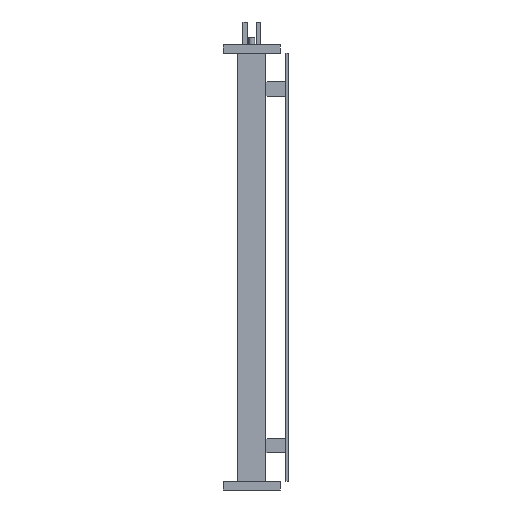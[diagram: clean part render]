
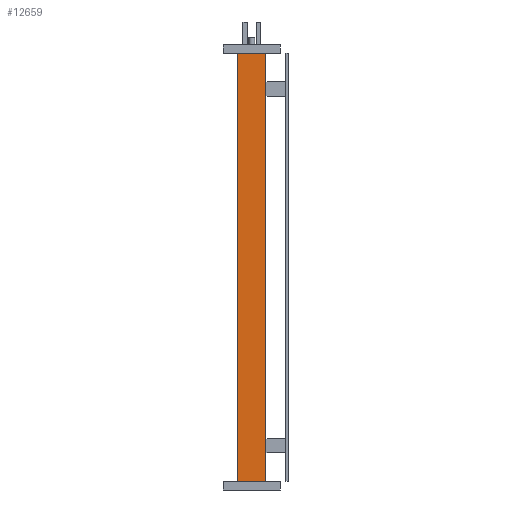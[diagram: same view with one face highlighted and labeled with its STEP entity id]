
A CAD part, left-side view. The second image highlights one B-rep face of the part: STEP entity #12659.
In plain terms, the highlighted planar face has unit normal (-1, 0, 0).
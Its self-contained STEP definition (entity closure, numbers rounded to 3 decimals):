
#12659 = ADVANCED_FACE('',(#12660),#12674,.F.);
#12660 = FACE_BOUND('',#12661,.F.);
#12661 = EDGE_LOOP('',(#12662,#12697,#12725,#12753));
#12662 = ORIENTED_EDGE('',*,*,#12663,.F.);
#12663 = EDGE_CURVE('',#12664,#12666,#12668,.T.);
#12664 = VERTEX_POINT('',#12665);
#12665 = CARTESIAN_POINT('',(-85.,-20.,12.));
#12666 = VERTEX_POINT('',#12667);
#12667 = CARTESIAN_POINT('',(-85.,-20.,612.));
#12668 = SURFACE_CURVE('',#12669,(#12673,#12685),.PCURVE_S1.);
#12669 = LINE('',#12670,#12671);
#12670 = CARTESIAN_POINT('',(-85.,-20.,12.));
#12671 = VECTOR('',#12672,1.);
#12672 = DIRECTION('',(0.,0.,1.));
#12673 = PCURVE('',#12674,#12679);
#12674 = PLANE('',#12675);
#12675 = AXIS2_PLACEMENT_3D('',#12676,#12677,#12678);
#12676 = CARTESIAN_POINT('',(-85.,-20.,12.));
#12677 = DIRECTION('',(1.,0.,0.));
#12678 = DIRECTION('',(0.,0.,1.));
#12679 = DEFINITIONAL_REPRESENTATION('',(#12680),#12684);
#12680 = LINE('',#12681,#12682);
#12681 = CARTESIAN_POINT('',(0.,0.));
#12682 = VECTOR('',#12683,1.);
#12683 = DIRECTION('',(1.,0.));
#12684 = ( GEOMETRIC_REPRESENTATION_CONTEXT(2) 
PARAMETRIC_REPRESENTATION_CONTEXT() REPRESENTATION_CONTEXT('2D SPACE',''
  ) );
#12685 = PCURVE('',#12686,#12691);
#12686 = PLANE('',#12687);
#12687 = AXIS2_PLACEMENT_3D('',#12688,#12689,#12690);
#12688 = CARTESIAN_POINT('',(-85.,-20.,12.));
#12689 = DIRECTION('',(0.,1.,0.));
#12690 = DIRECTION('',(0.,-0.,1.));
#12691 = DEFINITIONAL_REPRESENTATION('',(#12692),#12696);
#12692 = LINE('',#12693,#12694);
#12693 = CARTESIAN_POINT('',(0.,0.));
#12694 = VECTOR('',#12695,1.);
#12695 = DIRECTION('',(1.,0.));
#12696 = ( GEOMETRIC_REPRESENTATION_CONTEXT(2) 
PARAMETRIC_REPRESENTATION_CONTEXT() REPRESENTATION_CONTEXT('2D SPACE',''
  ) );
#12697 = ORIENTED_EDGE('',*,*,#12698,.T.);
#12698 = EDGE_CURVE('',#12664,#12699,#12701,.T.);
#12699 = VERTEX_POINT('',#12700);
#12700 = CARTESIAN_POINT('',(-85.,20.,12.));
#12701 = SURFACE_CURVE('',#12702,(#12706,#12713),.PCURVE_S1.);
#12702 = LINE('',#12703,#12704);
#12703 = CARTESIAN_POINT('',(-85.,-20.,12.));
#12704 = VECTOR('',#12705,1.);
#12705 = DIRECTION('',(0.,1.,0.));
#12706 = PCURVE('',#12674,#12707);
#12707 = DEFINITIONAL_REPRESENTATION('',(#12708),#12712);
#12708 = LINE('',#12709,#12710);
#12709 = CARTESIAN_POINT('',(0.,0.));
#12710 = VECTOR('',#12711,1.);
#12711 = DIRECTION('',(0.,-1.));
#12712 = ( GEOMETRIC_REPRESENTATION_CONTEXT(2) 
PARAMETRIC_REPRESENTATION_CONTEXT() REPRESENTATION_CONTEXT('2D SPACE',''
  ) );
#12713 = PCURVE('',#12714,#12719);
#12714 = PLANE('',#12715);
#12715 = AXIS2_PLACEMENT_3D('',#12716,#12717,#12718);
#12716 = CARTESIAN_POINT('',(-85.,-20.,12.));
#12717 = DIRECTION('',(0.,0.,1.));
#12718 = DIRECTION('',(1.,0.,-0.));
#12719 = DEFINITIONAL_REPRESENTATION('',(#12720),#12724);
#12720 = LINE('',#12721,#12722);
#12721 = CARTESIAN_POINT('',(0.,0.));
#12722 = VECTOR('',#12723,1.);
#12723 = DIRECTION('',(0.,1.));
#12724 = ( GEOMETRIC_REPRESENTATION_CONTEXT(2) 
PARAMETRIC_REPRESENTATION_CONTEXT() REPRESENTATION_CONTEXT('2D SPACE',''
  ) );
#12725 = ORIENTED_EDGE('',*,*,#12726,.T.);
#12726 = EDGE_CURVE('',#12699,#12727,#12729,.T.);
#12727 = VERTEX_POINT('',#12728);
#12728 = CARTESIAN_POINT('',(-85.,20.,612.));
#12729 = SURFACE_CURVE('',#12730,(#12734,#12741),.PCURVE_S1.);
#12730 = LINE('',#12731,#12732);
#12731 = CARTESIAN_POINT('',(-85.,20.,12.));
#12732 = VECTOR('',#12733,1.);
#12733 = DIRECTION('',(0.,0.,1.));
#12734 = PCURVE('',#12674,#12735);
#12735 = DEFINITIONAL_REPRESENTATION('',(#12736),#12740);
#12736 = LINE('',#12737,#12738);
#12737 = CARTESIAN_POINT('',(0.,-40.));
#12738 = VECTOR('',#12739,1.);
#12739 = DIRECTION('',(1.,0.));
#12740 = ( GEOMETRIC_REPRESENTATION_CONTEXT(2) 
PARAMETRIC_REPRESENTATION_CONTEXT() REPRESENTATION_CONTEXT('2D SPACE',''
  ) );
#12741 = PCURVE('',#12742,#12747);
#12742 = PLANE('',#12743);
#12743 = AXIS2_PLACEMENT_3D('',#12744,#12745,#12746);
#12744 = CARTESIAN_POINT('',(-85.,20.,12.));
#12745 = DIRECTION('',(0.,1.,0.));
#12746 = DIRECTION('',(0.,-0.,1.));
#12747 = DEFINITIONAL_REPRESENTATION('',(#12748),#12752);
#12748 = LINE('',#12749,#12750);
#12749 = CARTESIAN_POINT('',(0.,0.));
#12750 = VECTOR('',#12751,1.);
#12751 = DIRECTION('',(1.,0.));
#12752 = ( GEOMETRIC_REPRESENTATION_CONTEXT(2) 
PARAMETRIC_REPRESENTATION_CONTEXT() REPRESENTATION_CONTEXT('2D SPACE',''
  ) );
#12753 = ORIENTED_EDGE('',*,*,#12754,.F.);
#12754 = EDGE_CURVE('',#12666,#12727,#12755,.T.);
#12755 = SURFACE_CURVE('',#12756,(#12760,#12767),.PCURVE_S1.);
#12756 = LINE('',#12757,#12758);
#12757 = CARTESIAN_POINT('',(-85.,-20.,612.));
#12758 = VECTOR('',#12759,1.);
#12759 = DIRECTION('',(0.,1.,0.));
#12760 = PCURVE('',#12674,#12761);
#12761 = DEFINITIONAL_REPRESENTATION('',(#12762),#12766);
#12762 = LINE('',#12763,#12764);
#12763 = CARTESIAN_POINT('',(600.,0.));
#12764 = VECTOR('',#12765,1.);
#12765 = DIRECTION('',(0.,-1.));
#12766 = ( GEOMETRIC_REPRESENTATION_CONTEXT(2) 
PARAMETRIC_REPRESENTATION_CONTEXT() REPRESENTATION_CONTEXT('2D SPACE',''
  ) );
#12767 = PCURVE('',#12768,#12773);
#12768 = PLANE('',#12769);
#12769 = AXIS2_PLACEMENT_3D('',#12770,#12771,#12772);
#12770 = CARTESIAN_POINT('',(-85.,-20.,612.));
#12771 = DIRECTION('',(0.,0.,1.));
#12772 = DIRECTION('',(1.,0.,-0.));
#12773 = DEFINITIONAL_REPRESENTATION('',(#12774),#12778);
#12774 = LINE('',#12775,#12776);
#12775 = CARTESIAN_POINT('',(0.,0.));
#12776 = VECTOR('',#12777,1.);
#12777 = DIRECTION('',(0.,1.));
#12778 = ( GEOMETRIC_REPRESENTATION_CONTEXT(2) 
PARAMETRIC_REPRESENTATION_CONTEXT() REPRESENTATION_CONTEXT('2D SPACE',''
  ) );
